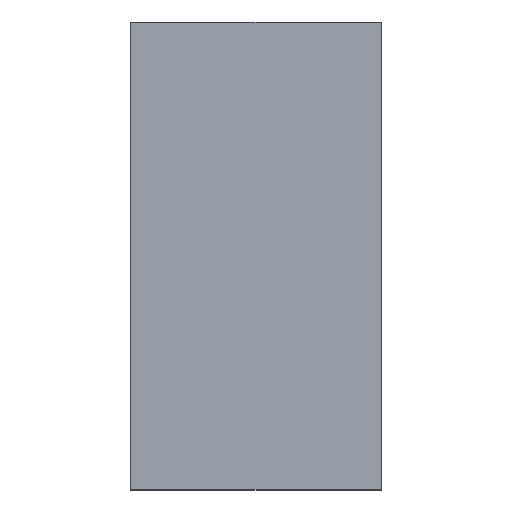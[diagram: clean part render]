
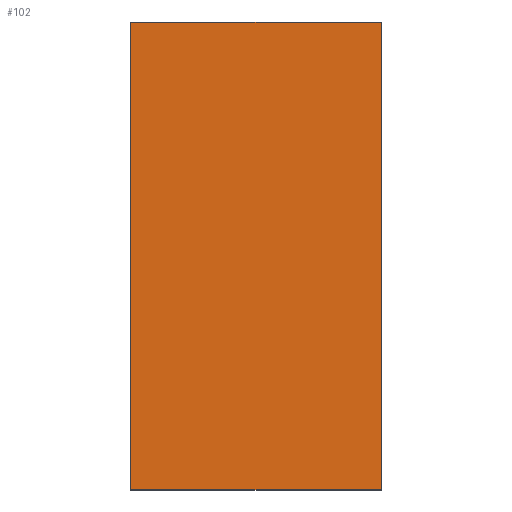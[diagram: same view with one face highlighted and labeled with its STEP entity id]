
A CAD part, top view. The second image highlights one B-rep face of the part: STEP entity #102.
In plain terms, the highlighted planar face has unit normal (0, 0, 1).
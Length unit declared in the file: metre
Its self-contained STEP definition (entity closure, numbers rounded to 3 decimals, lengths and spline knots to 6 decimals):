
#28=ORIENTED_EDGE('',*,*,#47,.T.);
#29=ORIENTED_EDGE('',*,*,#44,.T.);
#30=ORIENTED_EDGE('',*,*,#41,.T.);
#31=ORIENTED_EDGE('',*,*,#38,.T.);
#38=EDGE_CURVE('',#51,#50,#58,.F.);
#41=EDGE_CURVE('',#53,#51,#61,.T.);
#44=EDGE_CURVE('',#55,#53,#64,.T.);
#47=EDGE_CURVE('',#50,#55,#67,.F.);
#50=VERTEX_POINT('',#147);
#51=VERTEX_POINT('',#149);
#53=VERTEX_POINT('',#155);
#55=VERTEX_POINT('',#161);
#58=LINE('',#148,#70);
#61=LINE('',#154,#73);
#64=LINE('',#160,#76);
#67=LINE('',#165,#79);
#70=VECTOR('',#121,1.);
#73=VECTOR('',#126,1.);
#76=VECTOR('',#131,1.);
#79=VECTOR('',#136,1.);
#84=EDGE_LOOP('',(#28,#29,#30,#31));
#90=FACE_BOUND('',#84,.T.);
#96=PLANE('',#113);
#102=ADVANCED_FACE('',(#90),#96,.T.);
#113=AXIS2_PLACEMENT_3D('',#166,#137,#138);
#121=DIRECTION('',(0.,1.,0.));
#126=DIRECTION('',(-1.,0.,0.));
#131=DIRECTION('',(0.,1.,0.));
#136=DIRECTION('',(-1.,0.,0.));
#137=DIRECTION('',(0.,0.,1.));
#138=DIRECTION('',(0.,1.,0.));
#147=CARTESIAN_POINT('',(-0.03955,-0.00215,-0.02975));
#148=CARTESIAN_POINT('',(-0.03955,0.,-0.02975));
#149=CARTESIAN_POINT('',(-0.03955,0.00215,-0.02975));
#154=CARTESIAN_POINT('',(-0.0384,0.00215,-0.02975));
#155=CARTESIAN_POINT('',(-0.03725,0.00215,-0.02975));
#160=CARTESIAN_POINT('',(-0.03725,0.,-0.02975));
#161=CARTESIAN_POINT('',(-0.03725,-0.00215,-0.02975));
#165=CARTESIAN_POINT('',(-0.0384,-0.00215,-0.02975));
#166=CARTESIAN_POINT('',(-0.0384,0.,-0.02975));
